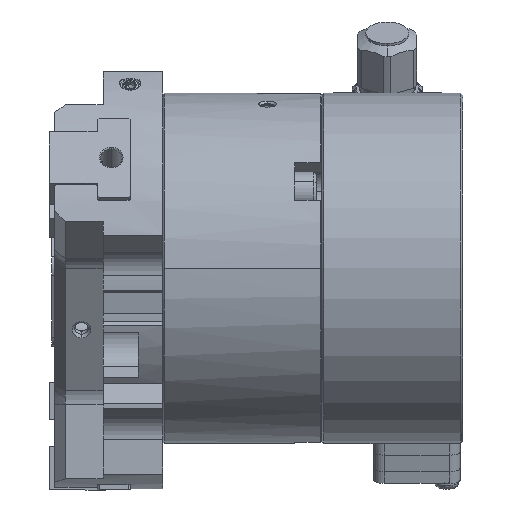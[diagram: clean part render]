
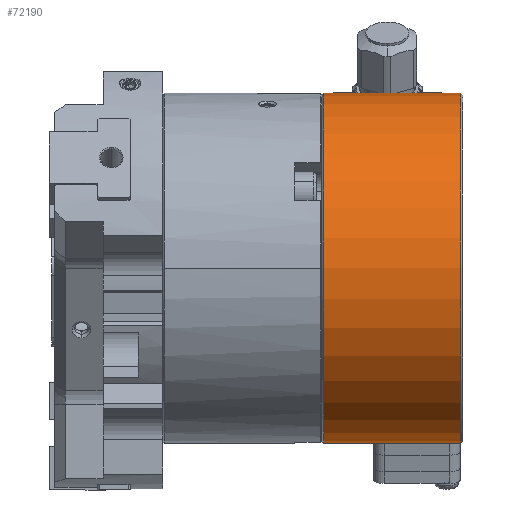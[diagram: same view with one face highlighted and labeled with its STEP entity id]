
A CAD part, left-side view. The second image highlights one B-rep face of the part: STEP entity #72190.
In plain terms, the highlighted cylindrical face has radius 32.5 mm (diameter 65 mm), a partial arc.
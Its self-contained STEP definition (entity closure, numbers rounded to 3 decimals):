
#3351 = DIRECTION ( 'NONE',  ( 0., 0., 1. ) ) ;
#4406 = VERTEX_POINT ( 'NONE', #68491 ) ;
#4724 = DIRECTION ( 'NONE',  ( 0., 1., 0. ) ) ;
#6977 = EDGE_CURVE ( 'NONE', #13167, #4406, #17603, .T. ) ;
#8329 = DIRECTION ( 'NONE',  ( 0., 1., 0. ) ) ;
#9776 = CARTESIAN_POINT ( 'NONE',  ( 0., 25.8, 0. ) ) ;
#10927 = ORIENTED_EDGE ( 'NONE', *, *, #55628, .T. ) ;
#13167 = VERTEX_POINT ( 'NONE', #42678 ) ;
#15960 = CARTESIAN_POINT ( 'NONE',  ( 0., 0.4, -32.5 ) ) ;
#16567 = EDGE_CURVE ( 'NONE', #49335, #36916, #24951, .T. ) ;
#17603 = LINE ( 'NONE', #42792, #68129 ) ;
#22036 = CYLINDRICAL_SURFACE ( 'NONE', #82996, 32.5 ) ;
#23004 = ORIENTED_EDGE ( 'NONE', *, *, #6977, .T. ) ;
#23498 = EDGE_LOOP ( 'NONE', ( #57676, #10927, #23004, #61990 ) ) ;
#23862 = CIRCLE ( 'NONE', #71514, 32.5 ) ;
#24951 = LINE ( 'NONE', #50947, #78611 ) ;
#27910 = CARTESIAN_POINT ( 'NONE',  ( 0., 0.4, 0. ) ) ;
#27980 = DIRECTION ( 'NONE',  ( 0., 0., 1. ) ) ;
#28408 = FACE_OUTER_BOUND ( 'NONE', #23498, .T. ) ;
#28970 = CIRCLE ( 'NONE', #64337, 32.5 ) ;
#29013 = DIRECTION ( 'NONE',  ( 0., 1., 0. ) ) ;
#36916 = VERTEX_POINT ( 'NONE', #52458 ) ;
#42678 = CARTESIAN_POINT ( 'NONE',  ( 0., 0.4, 32.5 ) ) ;
#42792 = CARTESIAN_POINT ( 'NONE',  ( 0., 55., 32.5 ) ) ;
#49335 = VERTEX_POINT ( 'NONE', #15960 ) ;
#50947 = CARTESIAN_POINT ( 'NONE',  ( 0., 55., -32.5 ) ) ;
#52458 = CARTESIAN_POINT ( 'NONE',  ( 0., 25.8, -32.5 ) ) ;
#55628 = EDGE_CURVE ( 'NONE', #49335, #13167, #23862, .T. ) ;
#57676 = ORIENTED_EDGE ( 'NONE', *, *, #16567, .F. ) ;
#61990 = ORIENTED_EDGE ( 'NONE', *, *, #78017, .F. ) ;
#64337 = AXIS2_PLACEMENT_3D ( 'NONE', #9776, #29013, #3351 ) ;
#68129 = VECTOR ( 'NONE', #4724, 1000. ) ;
#68491 = CARTESIAN_POINT ( 'NONE',  ( 0., 25.8, 32.5 ) ) ;
#71514 = AXIS2_PLACEMENT_3D ( 'NONE', #27910, #79993, #80434 ) ;
#72190 = ADVANCED_FACE ( 'NONE', ( #28408 ), #22036, .T. ) ;
#76987 = DIRECTION ( 'NONE',  ( 0., 1., 0. ) ) ;
#78017 = EDGE_CURVE ( 'NONE', #36916, #4406, #28970, .T. ) ;
#78611 = VECTOR ( 'NONE', #76987, 1000. ) ;
#79637 = CARTESIAN_POINT ( 'NONE',  ( 0., 55., 0. ) ) ;
#79993 = DIRECTION ( 'NONE',  ( 0., 1., 0. ) ) ;
#80434 = DIRECTION ( 'NONE',  ( 0., 0., 1. ) ) ;
#82996 = AXIS2_PLACEMENT_3D ( 'NONE', #79637, #8329, #27980 ) ;
